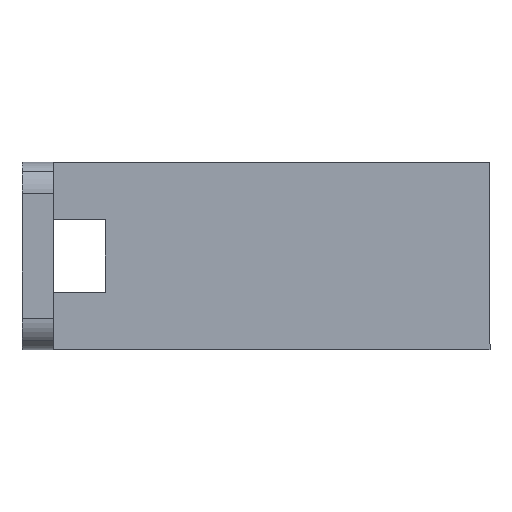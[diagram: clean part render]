
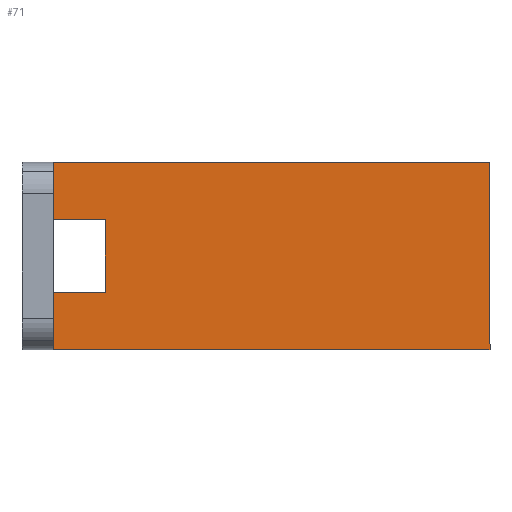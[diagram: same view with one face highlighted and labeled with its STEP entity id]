
A CAD part, top view. The second image highlights one B-rep face of the part: STEP entity #71.
In plain terms, the highlighted planar face has unit normal (0, 0, 1).
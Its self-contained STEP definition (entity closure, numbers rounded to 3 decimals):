
#71=ADVANCED_FACE('',(#105),#106,.F.);
#105=FACE_OUTER_BOUND('',#153,.T.);
#106=PLANE('',#154);
#153=EDGE_LOOP('',(#250,#251,#252,#253,#254,#255,#256,#257));
#154=AXIS2_PLACEMENT_3D('',#258,#259,#260);
#250=ORIENTED_EDGE('',*,*,#359,.F.);
#251=ORIENTED_EDGE('',*,*,#381,.F.);
#252=ORIENTED_EDGE('',*,*,#378,.F.);
#253=ORIENTED_EDGE('',*,*,#375,.F.);
#254=ORIENTED_EDGE('',*,*,#372,.F.);
#255=ORIENTED_EDGE('',*,*,#369,.F.);
#256=ORIENTED_EDGE('',*,*,#366,.F.);
#257=ORIENTED_EDGE('',*,*,#363,.F.);
#258=CARTESIAN_POINT('',(25.869,-45.558,16.533));
#259=DIRECTION('',(0.0,0.,-1.0));
#260=DIRECTION('',(1.0,0.0,0.0));
#359=EDGE_CURVE('',#414,#415,#416,.T.);
#363=EDGE_CURVE('',#415,#422,#423,.T.);
#366=EDGE_CURVE('',#422,#427,#428,.T.);
#369=EDGE_CURVE('',#427,#432,#433,.T.);
#372=EDGE_CURVE('',#432,#437,#438,.T.);
#375=EDGE_CURVE('',#437,#442,#443,.T.);
#378=EDGE_CURVE('',#442,#447,#448,.T.);
#381=EDGE_CURVE('',#447,#414,#452,.T.);
#414=VERTEX_POINT('',#504);
#415=VERTEX_POINT('',#505);
#416=LINE('',#506,#507);
#422=VERTEX_POINT('',#516);
#423=LINE('',#517,#518);
#427=VERTEX_POINT('',#524);
#428=LINE('',#525,#526);
#432=VERTEX_POINT('',#532);
#433=LINE('',#533,#534);
#437=VERTEX_POINT('',#540);
#438=LINE('',#541,#542);
#442=VERTEX_POINT('',#548);
#443=LINE('',#549,#550);
#447=VERTEX_POINT('',#556);
#448=LINE('',#557,#558);
#452=LINE('',#564,#565);
#504=CARTESIAN_POINT('',(5.059,-54.558,16.533));
#505=CARTESIAN_POINT('',(5.059,-49.058,16.533));
#506=CARTESIAN_POINT('',(5.059,-54.558,16.533));
#507=VECTOR('',#636,1.0);
#516=CARTESIAN_POINT('',(13.059,-49.058,16.533));
#517=CARTESIAN_POINT('',(5.059,-49.058,16.533));
#518=VECTOR('',#640,1.0);
#524=CARTESIAN_POINT('',(13.059,-42.058,16.533));
#525=CARTESIAN_POINT('',(13.059,-49.058,16.533));
#526=VECTOR('',#643,1.0);
#532=CARTESIAN_POINT('',(5.059,-42.058,16.533));
#533=CARTESIAN_POINT('',(13.059,-42.058,16.533));
#534=VECTOR('',#646,1.0);
#540=CARTESIAN_POINT('',(5.059,-36.558,16.533));
#541=CARTESIAN_POINT('',(5.059,-42.058,16.533));
#542=VECTOR('',#649,1.0);
#548=CARTESIAN_POINT('',(50.059,-36.558,16.533));
#549=CARTESIAN_POINT('',(5.059,-36.558,16.533));
#550=VECTOR('',#652,1.0);
#556=CARTESIAN_POINT('',(50.059,-54.558,16.533));
#557=CARTESIAN_POINT('',(50.059,-36.558,16.533));
#558=VECTOR('',#655,1.0);
#564=CARTESIAN_POINT('',(50.059,-54.558,16.533));
#565=VECTOR('',#658,1.0);
#636=DIRECTION('',(0.,1.0,0.));
#640=DIRECTION('',(1.0,0.,0.));
#643=DIRECTION('',(0.,1.0,0.));
#646=DIRECTION('',(-1.0,0.,0.));
#649=DIRECTION('',(0.,1.0,0.));
#652=DIRECTION('',(1.0,0.,0.));
#655=DIRECTION('',(0.,-1.0,0.));
#658=DIRECTION('',(-1.0,0.,0.));
